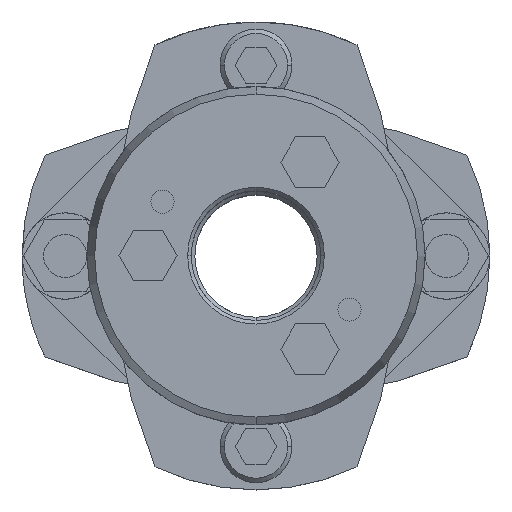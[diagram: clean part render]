
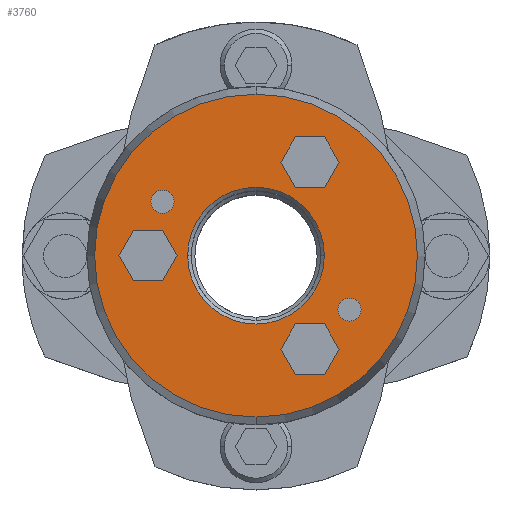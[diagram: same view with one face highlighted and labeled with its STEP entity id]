
A CAD part, top view. The second image highlights one B-rep face of the part: STEP entity #3760.
In plain terms, the highlighted planar face has unit normal (0, 0, 1).
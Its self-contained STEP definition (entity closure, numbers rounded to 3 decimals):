
#1462=CARTESIAN_POINT('',(0.,-22.428,30.75));
#1463=VERTEX_POINT('',#1462);
#1472=CARTESIAN_POINT('',(0.0,22.428,30.75));
#1473=VERTEX_POINT('',#1472);
#1474=CARTESIAN_POINT('',(0.0,0.,30.75));
#1475=DIRECTION('',(0.0,0.0,-1.0));
#1476=DIRECTION('',(0.0,-1.0,0.0));
#1477=AXIS2_PLACEMENT_3D('',#1474,#1475,#1476);
#1478=CIRCLE('',#1477,22.428);
#1479=EDGE_CURVE('',#1463,#1473,#1478,.T.);
#1506=CARTESIAN_POINT('',(-9.5,0.,30.75));
#1507=VERTEX_POINT('',#1506);
#1523=CARTESIAN_POINT('',(9.5,0.,30.75));
#1524=VERTEX_POINT('',#1523);
#1531=CARTESIAN_POINT('',(0.,0.,30.75));
#1532=DIRECTION('',(0.0,0.0,1.0));
#1533=DIRECTION('',(-1.0,0.0,0.0));
#1534=AXIS2_PLACEMENT_3D('',#1531,#1532,#1533);
#1535=CIRCLE('',#1534,9.5);
#1536=EDGE_CURVE('',#1524,#1507,#1535,.T.);
#1944=CARTESIAN_POINT('',(-14.59,7.5,30.75));
#1945=VERTEX_POINT('',#1944);
#1961=CARTESIAN_POINT('',(-11.39,7.5,30.75));
#1962=VERTEX_POINT('',#1961);
#1969=CARTESIAN_POINT('',(-12.99,7.5,30.75));
#1970=DIRECTION('',(0.0,0.0,-1.0));
#1971=DIRECTION('',(-1.0,0.0,0.0));
#1972=AXIS2_PLACEMENT_3D('',#1969,#1970,#1971);
#1973=CIRCLE('',#1972,1.6);
#1974=EDGE_CURVE('',#1945,#1962,#1973,.T.);
#1986=CARTESIAN_POINT('',(11.39,-7.5,30.75));
#1987=VERTEX_POINT('',#1986);
#2003=CARTESIAN_POINT('',(14.59,-7.5,30.75));
#2004=VERTEX_POINT('',#2003);
#2011=CARTESIAN_POINT('',(12.99,-7.5,30.75));
#2012=DIRECTION('',(0.0,0.0,-1.0));
#2013=DIRECTION('',(-1.0,0.0,0.0));
#2014=AXIS2_PLACEMENT_3D('',#2011,#2012,#2013);
#2015=CIRCLE('',#2014,1.6);
#2016=EDGE_CURVE('',#1987,#2004,#2015,.T.);
#2113=CARTESIAN_POINT('',(12.99,-7.5,30.75));
#2114=DIRECTION('',(0.0,0.0,-1.0));
#2115=DIRECTION('',(-1.0,0.0,0.0));
#2116=AXIS2_PLACEMENT_3D('',#2113,#2114,#2115);
#2117=CIRCLE('',#2116,1.6);
#2118=EDGE_CURVE('',#2004,#1987,#2117,.T.);
#2147=CARTESIAN_POINT('',(-12.99,7.5,30.75));
#2148=DIRECTION('',(0.0,0.0,-1.0));
#2149=DIRECTION('',(-1.0,0.0,0.0));
#2150=AXIS2_PLACEMENT_3D('',#2147,#2148,#2149);
#2151=CIRCLE('',#2150,1.6);
#2152=EDGE_CURVE('',#1962,#1945,#2151,.T.);
#2190=CARTESIAN_POINT('',(-19.041,0.,30.75));
#2191=VERTEX_POINT('',#2190);
#2198=CARTESIAN_POINT('',(-17.021,-3.5,30.75));
#2199=VERTEX_POINT('',#2198);
#2200=CARTESIAN_POINT('',(-17.021,-3.5,30.75));
#2201=DIRECTION('',(-0.5,0.866,0.0));
#2202=VECTOR('',#2201,4.041);
#2203=LINE('',#2200,#2202);
#2204=EDGE_CURVE('',#2199,#2191,#2203,.T.);
#2228=CARTESIAN_POINT('',(-17.021,3.5,30.75));
#2229=VERTEX_POINT('',#2228);
#2236=CARTESIAN_POINT('',(-19.041,0.,30.75));
#2237=DIRECTION('',(0.5,0.866,0.0));
#2238=VECTOR('',#2237,4.041);
#2239=LINE('',#2236,#2238);
#2240=EDGE_CURVE('',#2191,#2229,#2239,.T.);
#2259=CARTESIAN_POINT('',(-12.979,3.5,30.75));
#2260=VERTEX_POINT('',#2259);
#2267=CARTESIAN_POINT('',(-17.021,3.5,30.75));
#2268=DIRECTION('',(1.0,0.0,0.0));
#2269=VECTOR('',#2268,4.041);
#2270=LINE('',#2267,#2269);
#2271=EDGE_CURVE('',#2229,#2260,#2270,.T.);
#2290=CARTESIAN_POINT('',(-10.959,0.,30.75));
#2291=VERTEX_POINT('',#2290);
#2298=CARTESIAN_POINT('',(-12.979,3.5,30.75));
#2299=DIRECTION('',(0.5,-0.866,0.0));
#2300=VECTOR('',#2299,4.041);
#2301=LINE('',#2298,#2300);
#2302=EDGE_CURVE('',#2260,#2291,#2301,.T.);
#2321=CARTESIAN_POINT('',(-12.979,-3.5,30.75));
#2322=VERTEX_POINT('',#2321);
#2329=CARTESIAN_POINT('',(-10.959,0.,30.75));
#2330=DIRECTION('',(-0.5,-0.866,0.0));
#2331=VECTOR('',#2330,4.041);
#2332=LINE('',#2329,#2331);
#2333=EDGE_CURVE('',#2291,#2322,#2332,.T.);
#2351=CARTESIAN_POINT('',(-12.979,-3.5,30.75));
#2352=DIRECTION('',(-1.0,0.0,0.0));
#2353=VECTOR('',#2352,4.041);
#2354=LINE('',#2351,#2353);
#2355=EDGE_CURVE('',#2322,#2199,#2354,.T.);
#2390=CARTESIAN_POINT('',(3.459,-12.99,30.75));
#2391=VERTEX_POINT('',#2390);
#2398=CARTESIAN_POINT('',(5.479,-16.49,30.75));
#2399=VERTEX_POINT('',#2398);
#2400=CARTESIAN_POINT('',(5.479,-16.49,30.75));
#2401=DIRECTION('',(-0.5,0.866,0.0));
#2402=VECTOR('',#2401,4.041);
#2403=LINE('',#2400,#2402);
#2404=EDGE_CURVE('',#2399,#2391,#2403,.T.);
#2428=CARTESIAN_POINT('',(5.479,-9.49,30.75));
#2429=VERTEX_POINT('',#2428);
#2436=CARTESIAN_POINT('',(3.459,-12.99,30.75));
#2437=DIRECTION('',(0.5,0.866,0.0));
#2438=VECTOR('',#2437,4.041);
#2439=LINE('',#2436,#2438);
#2440=EDGE_CURVE('',#2391,#2429,#2439,.T.);
#2459=CARTESIAN_POINT('',(9.521,-9.49,30.75));
#2460=VERTEX_POINT('',#2459);
#2467=CARTESIAN_POINT('',(5.479,-9.49,30.75));
#2468=DIRECTION('',(1.0,0.0,0.0));
#2469=VECTOR('',#2468,4.041);
#2470=LINE('',#2467,#2469);
#2471=EDGE_CURVE('',#2429,#2460,#2470,.T.);
#2490=CARTESIAN_POINT('',(11.541,-12.99,30.75));
#2491=VERTEX_POINT('',#2490);
#2498=CARTESIAN_POINT('',(9.521,-9.49,30.75));
#2499=DIRECTION('',(0.5,-0.866,0.0));
#2500=VECTOR('',#2499,4.041);
#2501=LINE('',#2498,#2500);
#2502=EDGE_CURVE('',#2460,#2491,#2501,.T.);
#2521=CARTESIAN_POINT('',(9.521,-16.49,30.75));
#2522=VERTEX_POINT('',#2521);
#2529=CARTESIAN_POINT('',(11.541,-12.99,30.75));
#2530=DIRECTION('',(-0.5,-0.866,0.0));
#2531=VECTOR('',#2530,4.041);
#2532=LINE('',#2529,#2531);
#2533=EDGE_CURVE('',#2491,#2522,#2532,.T.);
#2551=CARTESIAN_POINT('',(9.521,-16.49,30.75));
#2552=DIRECTION('',(-1.0,0.0,0.0));
#2553=VECTOR('',#2552,4.041);
#2554=LINE('',#2551,#2553);
#2555=EDGE_CURVE('',#2522,#2399,#2554,.T.);
#2590=CARTESIAN_POINT('',(3.459,12.99,30.75));
#2591=VERTEX_POINT('',#2590);
#2598=CARTESIAN_POINT('',(5.479,9.49,30.75));
#2599=VERTEX_POINT('',#2598);
#2600=CARTESIAN_POINT('',(5.479,9.49,30.75));
#2601=DIRECTION('',(-0.5,0.866,0.0));
#2602=VECTOR('',#2601,4.041);
#2603=LINE('',#2600,#2602);
#2604=EDGE_CURVE('',#2599,#2591,#2603,.T.);
#2628=CARTESIAN_POINT('',(5.479,16.49,30.75));
#2629=VERTEX_POINT('',#2628);
#2636=CARTESIAN_POINT('',(3.459,12.99,30.75));
#2637=DIRECTION('',(0.5,0.866,0.0));
#2638=VECTOR('',#2637,4.041);
#2639=LINE('',#2636,#2638);
#2640=EDGE_CURVE('',#2591,#2629,#2639,.T.);
#2659=CARTESIAN_POINT('',(9.521,16.49,30.75));
#2660=VERTEX_POINT('',#2659);
#2667=CARTESIAN_POINT('',(5.479,16.49,30.75));
#2668=DIRECTION('',(1.0,0.0,0.0));
#2669=VECTOR('',#2668,4.041);
#2670=LINE('',#2667,#2669);
#2671=EDGE_CURVE('',#2629,#2660,#2670,.T.);
#2690=CARTESIAN_POINT('',(11.541,12.99,30.75));
#2691=VERTEX_POINT('',#2690);
#2698=CARTESIAN_POINT('',(9.521,16.49,30.75));
#2699=DIRECTION('',(0.5,-0.866,0.0));
#2700=VECTOR('',#2699,4.041);
#2701=LINE('',#2698,#2700);
#2702=EDGE_CURVE('',#2660,#2691,#2701,.T.);
#2721=CARTESIAN_POINT('',(9.521,9.49,30.75));
#2722=VERTEX_POINT('',#2721);
#2729=CARTESIAN_POINT('',(11.541,12.99,30.75));
#2730=DIRECTION('',(-0.5,-0.866,0.0));
#2731=VECTOR('',#2730,4.041);
#2732=LINE('',#2729,#2731);
#2733=EDGE_CURVE('',#2691,#2722,#2732,.T.);
#2751=CARTESIAN_POINT('',(9.521,9.49,30.75));
#2752=DIRECTION('',(-1.0,0.0,0.0));
#2753=VECTOR('',#2752,4.041);
#2754=LINE('',#2751,#2753);
#2755=EDGE_CURVE('',#2722,#2599,#2754,.T.);
#3697=CARTESIAN_POINT('',(0.,0.,30.75));
#3698=DIRECTION('',(0.0,0.0,1.0));
#3699=DIRECTION('',(-1.0,0.0,0.0));
#3700=AXIS2_PLACEMENT_3D('',#3697,#3698,#3699);
#3701=CIRCLE('',#3700,9.5);
#3702=EDGE_CURVE('',#1507,#1524,#3701,.T.);
#3709=CARTESIAN_POINT('',(0.,-9.964,30.75));
#3710=DIRECTION('',(0.0,0.0,1.0));
#3711=DIRECTION('',(-1.0,0.0,0.0));
#3712=AXIS2_PLACEMENT_3D('',#3709,#3710,#3711);
#3713=PLANE('',#3712);
#3714=ORIENTED_EDGE('',*,*,#1479,.F.);
#3715=CARTESIAN_POINT('',(0.0,0.,30.75));
#3716=DIRECTION('',(0.0,0.0,-1.0));
#3717=DIRECTION('',(0.0,-1.0,0.0));
#3718=AXIS2_PLACEMENT_3D('',#3715,#3716,#3717);
#3719=CIRCLE('',#3718,22.428);
#3720=EDGE_CURVE('',#1473,#1463,#3719,.T.);
#3721=ORIENTED_EDGE('',*,*,#3720,.F.);
#3722=EDGE_LOOP('',(#3714,#3721));
#3723=FACE_OUTER_BOUND('',#3722,.T.);
#3724=ORIENTED_EDGE('',*,*,#2016,.T.);
#3725=ORIENTED_EDGE('',*,*,#2118,.T.);
#3726=EDGE_LOOP('',(#3724,#3725));
#3727=FACE_BOUND('',#3726,.T.);
#3728=ORIENTED_EDGE('',*,*,#1974,.T.);
#3729=ORIENTED_EDGE('',*,*,#2152,.T.);
#3730=EDGE_LOOP('',(#3728,#3729));
#3731=FACE_BOUND('',#3730,.T.);
#3732=ORIENTED_EDGE('',*,*,#2204,.T.);
#3733=ORIENTED_EDGE('',*,*,#2240,.T.);
#3734=ORIENTED_EDGE('',*,*,#2271,.T.);
#3735=ORIENTED_EDGE('',*,*,#2302,.T.);
#3736=ORIENTED_EDGE('',*,*,#2333,.T.);
#3737=ORIENTED_EDGE('',*,*,#2355,.T.);
#3738=EDGE_LOOP('',(#3732,#3733,#3734,#3735,#3736,#3737));
#3739=FACE_BOUND('',#3738,.T.);
#3740=ORIENTED_EDGE('',*,*,#2404,.T.);
#3741=ORIENTED_EDGE('',*,*,#2440,.T.);
#3742=ORIENTED_EDGE('',*,*,#2471,.T.);
#3743=ORIENTED_EDGE('',*,*,#2502,.T.);
#3744=ORIENTED_EDGE('',*,*,#2533,.T.);
#3745=ORIENTED_EDGE('',*,*,#2555,.T.);
#3746=EDGE_LOOP('',(#3740,#3741,#3742,#3743,#3744,#3745));
#3747=FACE_BOUND('',#3746,.T.);
#3748=ORIENTED_EDGE('',*,*,#2604,.T.);
#3749=ORIENTED_EDGE('',*,*,#2640,.T.);
#3750=ORIENTED_EDGE('',*,*,#2671,.T.);
#3751=ORIENTED_EDGE('',*,*,#2702,.T.);
#3752=ORIENTED_EDGE('',*,*,#2733,.T.);
#3753=ORIENTED_EDGE('',*,*,#2755,.T.);
#3754=EDGE_LOOP('',(#3748,#3749,#3750,#3751,#3752,#3753));
#3755=FACE_BOUND('',#3754,.T.);
#3756=ORIENTED_EDGE('',*,*,#1536,.F.);
#3757=ORIENTED_EDGE('',*,*,#3702,.F.);
#3758=EDGE_LOOP('',(#3756,#3757));
#3759=FACE_BOUND('',#3758,.T.);
#3760=ADVANCED_FACE('',(#3723,#3727,#3731,#3739,#3747,#3755,#3759),#3713,.T.);
